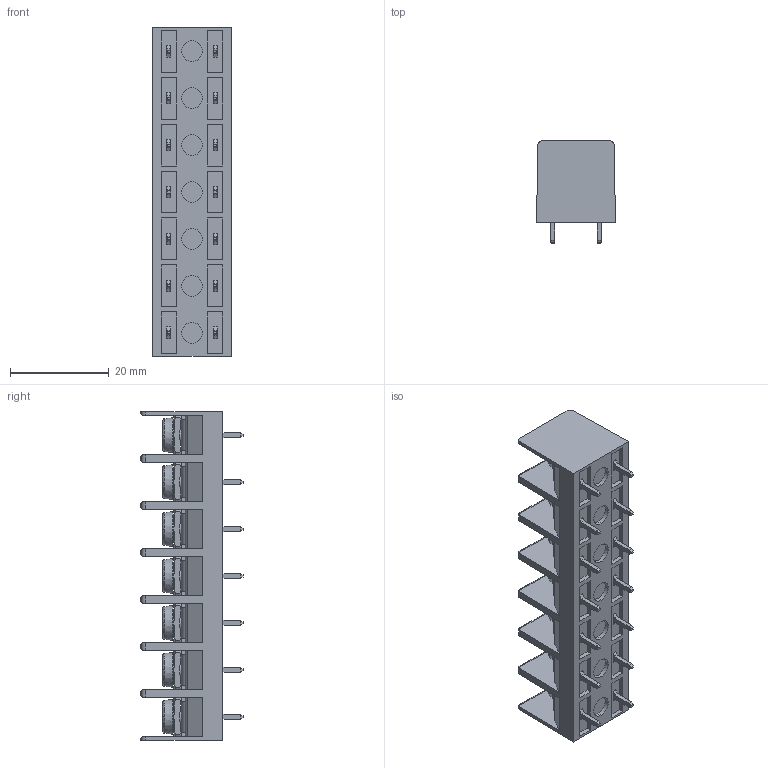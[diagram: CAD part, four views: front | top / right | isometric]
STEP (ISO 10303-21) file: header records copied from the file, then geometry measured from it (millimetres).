
FILE_DESCRIPTION (( 'STEP AP214' ), '1' );
FILE_NAME ('982-D-07.STEP', '2007-12-12T19:07:51', ( 'weco' ), ( 'weco' ), 'SwSTEP 2.0', 'SolidWorks 2007', '' );
FILE_SCHEMA (( 'AUTOMOTIVE_DESIGN' ));
Length unit declared in the file: millimetre
Products named in the file (1): 982-D-07
Bounding box: 16 x 20.7 x 66.62 mm (x, y, z)
Volume: 10076.1 mm3; surface area: 8360.5 mm2
Topology: 1 solids, 1 shells, 729 faces, 1971 edges, 1286 vertices
Faces by surface type: plane 510, cylinder 142, bspline 63, cone 14
Entity records: 25398 total; most frequent: CARTESIAN_POINT 7702, ORIENTED_EDGE 3942, DIRECTION 3246, EDGE_CURVE 1971, LINE 1358, VECTOR 1358, VERTEX_POINT 1286, AXIS2_PLACEMENT_3D 944
